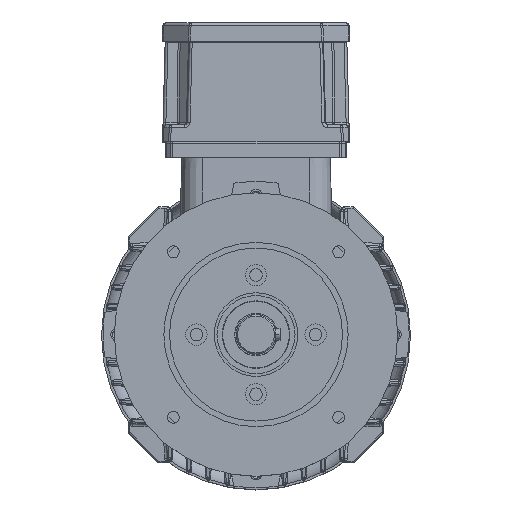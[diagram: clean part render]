
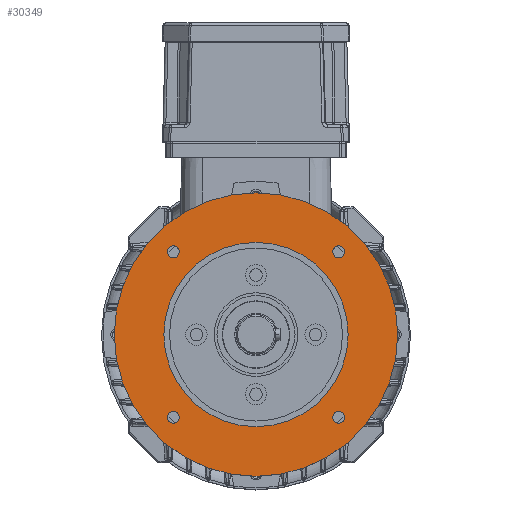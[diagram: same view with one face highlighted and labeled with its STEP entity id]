
A CAD part, top view. The second image highlights one B-rep face of the part: STEP entity #30349.
In plain terms, the highlighted planar face has unit normal (0, 0, 1).
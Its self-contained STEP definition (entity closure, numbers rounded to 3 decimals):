
#83 = VERTEX_POINT ( 'NONE', #149558 ) ;
#4035 = CARTESIAN_POINT ( 'NONE',  ( -65., 0., 165. ) ) ;
#4280 = DIRECTION ( 'NONE',  ( 0., 0., 1. ) ) ;
#5187 = FACE_BOUND ( 'NONE', #104563, .T. ) ;
#5323 = DIRECTION ( 'NONE',  ( 1., 0., 0. ) ) ;
#6940 = CIRCLE ( 'NONE', #149270, 4.25 ) ;
#7204 = CIRCLE ( 'NONE', #38310, 4.25 ) ;
#8373 = DIRECTION ( 'NONE',  ( 0., 0., -1. ) ) ;
#10951 = ORIENTED_EDGE ( 'NONE', *, *, #97356, .F. ) ;
#12865 = FACE_BOUND ( 'NONE', #154183, .T. ) ;
#13895 = DIRECTION ( 'NONE',  ( 0., 0., 1. ) ) ;
#14675 = EDGE_CURVE ( 'NONE', #46662, #89900, #126636, .T. ) ;
#15762 = EDGE_CURVE ( 'NONE', #89900, #46662, #105159, .T. ) ;
#17309 = CARTESIAN_POINT ( 'NONE',  ( -58.336, -58.336, 165. ) ) ;
#20635 = FACE_BOUND ( 'NONE', #26719, .T. ) ;
#23057 = AXIS2_PLACEMENT_3D ( 'NONE', #17309, #65248, #138755 ) ;
#26719 = EDGE_LOOP ( 'NONE', ( #139278, #50909 ) ) ;
#29800 = VERTEX_POINT ( 'NONE', #108332 ) ;
#30349 = ADVANCED_FACE ( 'NONE', ( #5187, #138713, #94764, #12865, #20635, #73922 ), #118079, .F. ) ;
#30937 = CARTESIAN_POINT ( 'NONE',  ( 65., 0., 165. ) ) ;
#32102 = ORIENTED_EDGE ( 'NONE', *, *, #55933, .F. ) ;
#33081 = CIRCLE ( 'NONE', #50240, 4.25 ) ;
#33822 = VERTEX_POINT ( 'NONE', #37940 ) ;
#34318 = EDGE_LOOP ( 'NONE', ( #98263, #157161 ) ) ;
#34530 = CARTESIAN_POINT ( 'NONE',  ( -100., 0., 165. ) ) ;
#34802 = AXIS2_PLACEMENT_3D ( 'NONE', #78599, #89209, #113685 ) ;
#37940 = CARTESIAN_POINT ( 'NONE',  ( -54.086, -58.336, 165. ) ) ;
#38310 = AXIS2_PLACEMENT_3D ( 'NONE', #54289, #52721, #65994 ) ;
#38982 = CARTESIAN_POINT ( 'NONE',  ( 0., 0., 165. ) ) ;
#39048 = ORIENTED_EDGE ( 'NONE', *, *, #63298, .F. ) ;
#42394 = DIRECTION ( 'NONE',  ( 1., 0., 0. ) ) ;
#44147 = CARTESIAN_POINT ( 'NONE',  ( 0., 65., 165. ) ) ;
#45439 = ORIENTED_EDGE ( 'NONE', *, *, #67687, .F. ) ;
#46662 = VERTEX_POINT ( 'NONE', #34530 ) ;
#47904 = AXIS2_PLACEMENT_3D ( 'NONE', #157347, #108773, #133762 ) ;
#49576 = EDGE_LOOP ( 'NONE', ( #39048, #84294 ) ) ;
#50240 = AXIS2_PLACEMENT_3D ( 'NONE', #95427, #121528, #107763 ) ;
#50909 = ORIENTED_EDGE ( 'NONE', *, *, #122959, .F. ) ;
#52186 = VERTEX_POINT ( 'NONE', #75096 ) ;
#52721 = DIRECTION ( 'NONE',  ( 0., 0., 1. ) ) ;
#52878 = CARTESIAN_POINT ( 'NONE',  ( 58.336, 58.336, 165. ) ) ;
#54289 = CARTESIAN_POINT ( 'NONE',  ( -58.336, -58.336, 165. ) ) ;
#54968 = EDGE_LOOP ( 'NONE', ( #95012, #157471 ) ) ;
#55933 = EDGE_CURVE ( 'NONE', #130969, #29800, #145708, .T. ) ;
#56398 = DIRECTION ( 'NONE',  ( -1., 0., 0. ) ) ;
#56809 = CARTESIAN_POINT ( 'NONE',  ( 0., 0., 165. ) ) ;
#57697 = CARTESIAN_POINT ( 'NONE',  ( 54.086, -58.336, 165. ) ) ;
#57731 = CIRCLE ( 'NONE', #63568, 65. ) ;
#63298 = EDGE_CURVE ( 'NONE', #75743, #75409, #128643, .T. ) ;
#63568 = AXIS2_PLACEMENT_3D ( 'NONE', #65347, #90360, #102568 ) ;
#65248 = DIRECTION ( 'NONE',  ( 0., 0., 1. ) ) ;
#65347 = CARTESIAN_POINT ( 'NONE',  ( 0., 0., 165. ) ) ;
#65994 = DIRECTION ( 'NONE',  ( 1., 0., 0. ) ) ;
#67687 = EDGE_CURVE ( 'NONE', #83, #52186, #97980, .T. ) ;
#69293 = VERTEX_POINT ( 'NONE', #4035 ) ;
#70692 = VERTEX_POINT ( 'NONE', #85056 ) ;
#70953 = CARTESIAN_POINT ( 'NONE',  ( 0., 0., 165. ) ) ;
#71457 = EDGE_CURVE ( 'NONE', #70692, #33822, #7204, .T. ) ;
#73922 = FACE_OUTER_BOUND ( 'NONE', #54968, .T. ) ;
#74605 = AXIS2_PLACEMENT_3D ( 'NONE', #56809, #153793, #142013 ) ;
#75096 = CARTESIAN_POINT ( 'NONE',  ( 54.086, 58.336, 165. ) ) ;
#75409 = VERTEX_POINT ( 'NONE', #57697 ) ;
#75637 = ORIENTED_EDGE ( 'NONE', *, *, #141708, .F. ) ;
#75743 = VERTEX_POINT ( 'NONE', #78910 ) ;
#78431 = AXIS2_PLACEMENT_3D ( 'NONE', #115335, #151102, #42394 ) ;
#78599 = CARTESIAN_POINT ( 'NONE',  ( 58.336, -58.336, 165. ) ) ;
#78910 = CARTESIAN_POINT ( 'NONE',  ( 62.586, -58.336, 165. ) ) ;
#78956 = CARTESIAN_POINT ( 'NONE',  ( -58.336, 58.336, 165. ) ) ;
#84294 = ORIENTED_EDGE ( 'NONE', *, *, #131018, .F. ) ;
#85056 = CARTESIAN_POINT ( 'NONE',  ( -62.586, -58.336, 165. ) ) ;
#89209 = DIRECTION ( 'NONE',  ( 0., 0., 1. ) ) ;
#89231 = CIRCLE ( 'NONE', #118080, 65. ) ;
#89900 = VERTEX_POINT ( 'NONE', #136413 ) ;
#90267 = CARTESIAN_POINT ( 'NONE',  ( -62.586, 58.336, 165. ) ) ;
#90360 = DIRECTION ( 'NONE',  ( 0., 0., 1. ) ) ;
#94764 = FACE_BOUND ( 'NONE', #49576, .T. ) ;
#95012 = ORIENTED_EDGE ( 'NONE', *, *, #15762, .T. ) ;
#95427 = CARTESIAN_POINT ( 'NONE',  ( 58.336, -58.336, 165. ) ) ;
#97356 = EDGE_CURVE ( 'NONE', #29800, #130969, #112764, .T. ) ;
#97980 = CIRCLE ( 'NONE', #47904, 4.25 ) ;
#98263 = ORIENTED_EDGE ( 'NONE', *, *, #146998, .F. ) ;
#99501 = AXIS2_PLACEMENT_3D ( 'NONE', #78956, #4280, #5323 ) ;
#100738 = DIRECTION ( 'NONE',  ( 0., 0., 1. ) ) ;
#101097 = VERTEX_POINT ( 'NONE', #30937 ) ;
#101945 = CIRCLE ( 'NONE', #23057, 4.25 ) ;
#102568 = DIRECTION ( 'NONE',  ( 1., 0., 0. ) ) ;
#104563 = EDGE_LOOP ( 'NONE', ( #10951, #32102 ) ) ;
#105159 = CIRCLE ( 'NONE', #74605, 100. ) ;
#107763 = DIRECTION ( 'NONE',  ( 1., 0., 0. ) ) ;
#108332 = CARTESIAN_POINT ( 'NONE',  ( -54.086, 58.336, 165. ) ) ;
#108773 = DIRECTION ( 'NONE',  ( 0., 0., 1. ) ) ;
#111362 = DIRECTION ( 'NONE',  ( 1., 0., 0. ) ) ;
#111653 = EDGE_CURVE ( 'NONE', #101097, #69293, #89231, .T. ) ;
#112764 = CIRCLE ( 'NONE', #99501, 4.25 ) ;
#113685 = DIRECTION ( 'NONE',  ( 1., 0., 0. ) ) ;
#114001 = AXIS2_PLACEMENT_3D ( 'NONE', #44147, #8373, #56398 ) ;
#115335 = CARTESIAN_POINT ( 'NONE',  ( -58.336, 58.336, 165. ) ) ;
#118079 = PLANE ( 'NONE',  #114001 ) ;
#118080 = AXIS2_PLACEMENT_3D ( 'NONE', #70953, #131611, #155704 ) ;
#121528 = DIRECTION ( 'NONE',  ( 0., 0., 1. ) ) ;
#122959 = EDGE_CURVE ( 'NONE', #69293, #101097, #57731, .T. ) ;
#126636 = CIRCLE ( 'NONE', #141363, 100. ) ;
#128643 = CIRCLE ( 'NONE', #34802, 4.25 ) ;
#130969 = VERTEX_POINT ( 'NONE', #90267 ) ;
#131018 = EDGE_CURVE ( 'NONE', #75409, #75743, #33081, .T. ) ;
#131611 = DIRECTION ( 'NONE',  ( 0., 0., 1. ) ) ;
#133762 = DIRECTION ( 'NONE',  ( 1., 0., 0. ) ) ;
#136413 = CARTESIAN_POINT ( 'NONE',  ( 100., 0., 165. ) ) ;
#137499 = DIRECTION ( 'NONE',  ( 1., 0., 0. ) ) ;
#138713 = FACE_BOUND ( 'NONE', #34318, .T. ) ;
#138755 = DIRECTION ( 'NONE',  ( 1., 0., 0. ) ) ;
#139278 = ORIENTED_EDGE ( 'NONE', *, *, #111653, .F. ) ;
#141363 = AXIS2_PLACEMENT_3D ( 'NONE', #38982, #13895, #111362 ) ;
#141708 = EDGE_CURVE ( 'NONE', #52186, #83, #6940, .T. ) ;
#142013 = DIRECTION ( 'NONE',  ( 1., 0., 0. ) ) ;
#145708 = CIRCLE ( 'NONE', #78431, 4.25 ) ;
#146998 = EDGE_CURVE ( 'NONE', #33822, #70692, #101945, .T. ) ;
#149270 = AXIS2_PLACEMENT_3D ( 'NONE', #52878, #100738, #137499 ) ;
#149558 = CARTESIAN_POINT ( 'NONE',  ( 62.586, 58.336, 165. ) ) ;
#151102 = DIRECTION ( 'NONE',  ( 0., 0., 1. ) ) ;
#153793 = DIRECTION ( 'NONE',  ( 0., 0., 1. ) ) ;
#154183 = EDGE_LOOP ( 'NONE', ( #45439, #75637 ) ) ;
#155704 = DIRECTION ( 'NONE',  ( 1., 0., 0. ) ) ;
#157161 = ORIENTED_EDGE ( 'NONE', *, *, #71457, .F. ) ;
#157347 = CARTESIAN_POINT ( 'NONE',  ( 58.336, 58.336, 165. ) ) ;
#157471 = ORIENTED_EDGE ( 'NONE', *, *, #14675, .T. ) ;
